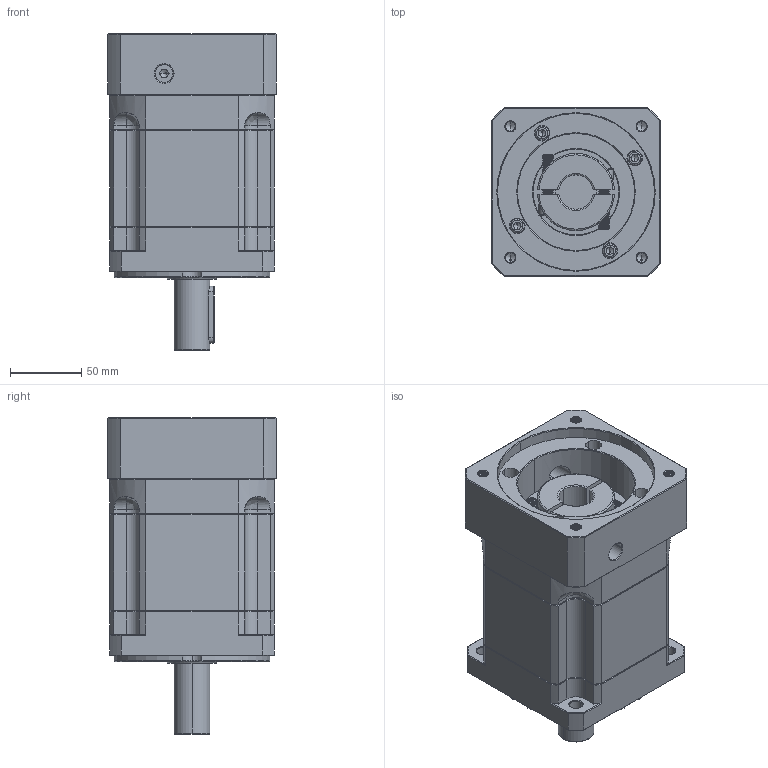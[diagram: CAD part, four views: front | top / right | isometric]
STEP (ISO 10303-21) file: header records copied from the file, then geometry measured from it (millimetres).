
FILE_DESCRIPTION (( 'STEP AP214' ), '1' );
FILE_NAME ('ZB115A-D25-L2-P2-24-110-130-M8.step', '2023-08-26T06:23:51', ( '' ), ( '' ), 'SwSTEP 2.0', 'SolidWorks 2016', '' );
FILE_SCHEMA (( 'AUTOMOTIVE_DESIGN' ));
Length unit declared in the file: millimetre
Products named in the file (1): ZB115A-D25-L2-P2-24-110-130-M8
Bounding box: 118 x 118 x 222 mm (x, y, z)
Volume: 1873259.9 mm3; surface area: 181649.8 mm2
Topology: 6 solids, 6 shells, 2395 faces, 6285 edges, 3990 vertices
Faces by surface type: plane 1144, cylinder 441, bspline 423, cone 367, torus 20
Entity records: 129132 total; most frequent: CARTESIAN_POINT 47364, ORIENTED_EDGE 12502, DIRECTION 9901, EDGE_CURVE 6251, LINE 3997, VECTOR 3997, VERTEX_POINT 3990, AXIS2_PLACEMENT_3D 2952
